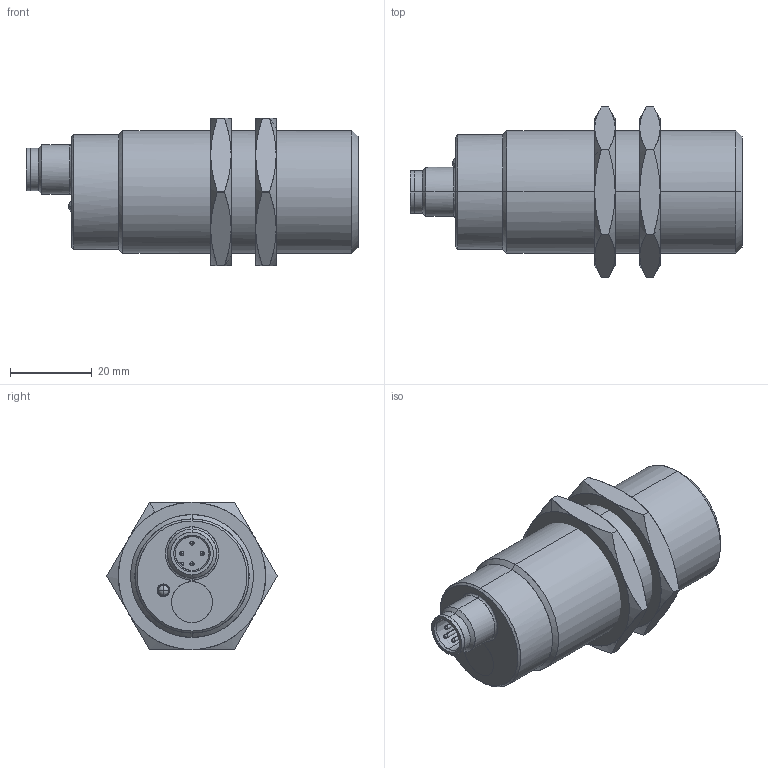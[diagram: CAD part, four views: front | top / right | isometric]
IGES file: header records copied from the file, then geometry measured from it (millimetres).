
Start section: Comment
Global section: file name: UxAM_30_Button_S14.igs; native system:  By Spatial Corp.; preprocessor: XPlus PS/IGES 3.0; author: Author; organization: Title; date: 20031009.161138; units: inch
Bounding box: 81.14 x 41.56 x 36 mm (x, y, z)
Surface area: 12254.2 mm2 (no closed solid volume)
Topology: 0 solids, 0 shells, 143 faces, 648 edges, 626 vertices
Faces by surface type: revolution 117, extrusion 26
